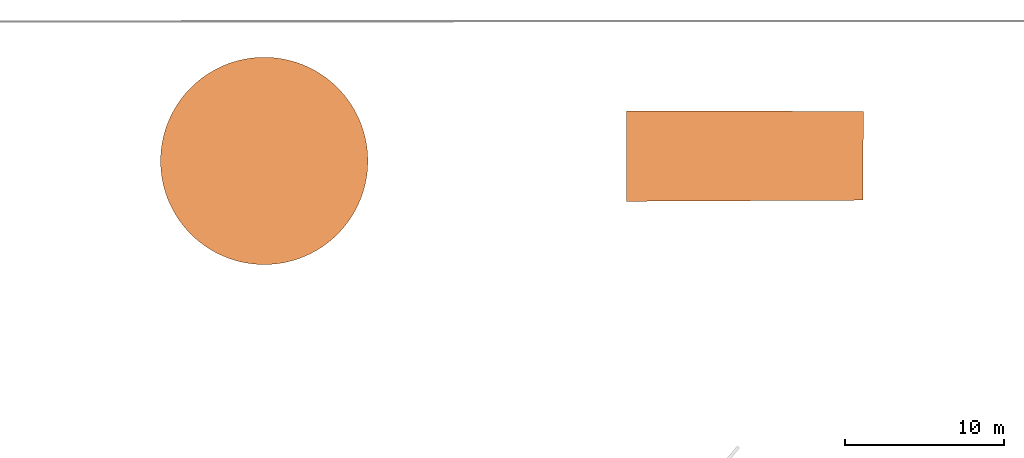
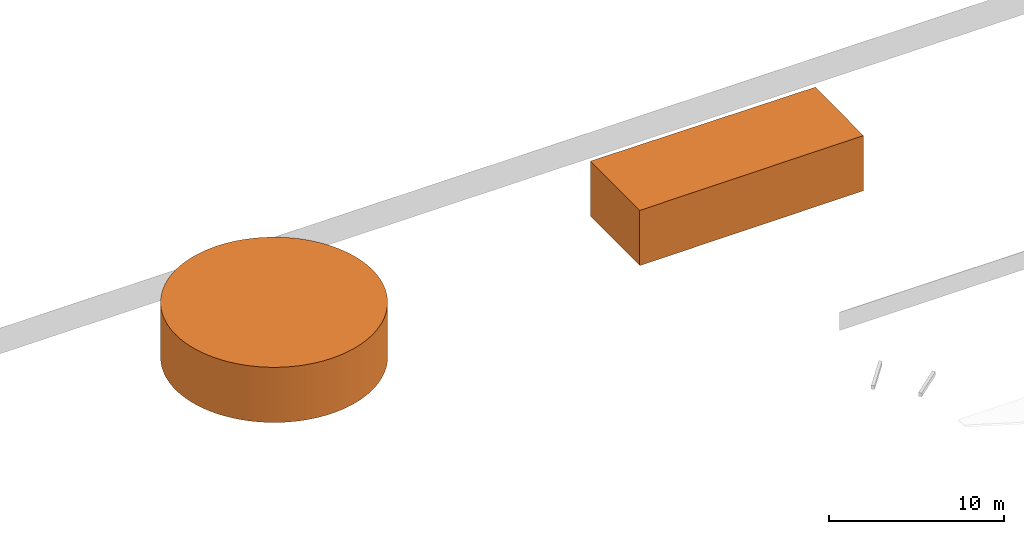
# One storey, part 14 of 16: 1 proxy.
"""IFC2X3 building model written with IfcOpenShell, lengths in millimetres."""

from ifc_helpers import new_model, entity, si_unit, converted_unit, derived_unit, direction, frame, frame_2d, origin, place, context, subcontext, project, spatial, polyline, circle, outline, extrude, source, transform, mapped, material, type_object, type_shapes, element, save


model = new_model("IFC2X3")

# Units and contexts
model_context = context("Model", 3, precision=0.01, world=origin(), true_north=direction((4.05803320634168e-15, -1.0)))
body_context = subcontext(model_context, "Body", "Model", "MODEL_VIEW")
ifc_project = project(units=[si_unit("LENGTHUNIT", "METRE", prefix="MILLI"), si_unit("AREAUNIT", "SQUARE_METRE"), si_unit("VOLUMEUNIT", "CUBIC_METRE"), converted_unit("PLANEANGLEUNIT", "DEGREE", entity("IfcRatioMeasure", 0.0174532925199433), si_unit("PLANEANGLEUNIT", "RADIAN"), dimensions=[0, 0, 0, 0, 0, 0, 0]), si_unit("MASSUNIT", "GRAM", prefix="KILO"), derived_unit("MASSDENSITYUNIT", [(si_unit("MASSUNIT", "GRAM", prefix="KILO"), 1), (si_unit("LENGTHUNIT", "METRE"), -3)]), si_unit("TIMEUNIT", "SECOND"), si_unit("FREQUENCYUNIT", "HERTZ"), si_unit("THERMODYNAMICTEMPERATUREUNIT", "DEGREE_CELSIUS"), derived_unit("THERMALTRANSMITTANCEUNIT", [(si_unit("MASSUNIT", "GRAM", prefix="KILO"), 1), (si_unit("THERMODYNAMICTEMPERATUREUNIT", "KELVIN"), -1), (si_unit("TIMEUNIT", "SECOND"), -3)]), derived_unit("VOLUMETRICFLOWRATEUNIT", [(si_unit("LENGTHUNIT", "METRE"), 3), (si_unit("TIMEUNIT", "SECOND"), -1)]), si_unit("ELECTRICCURRENTUNIT", "AMPERE"), si_unit("ELECTRICVOLTAGEUNIT", "VOLT"), si_unit("POWERUNIT", "WATT"), si_unit("FORCEUNIT", "NEWTON", prefix="KILO"), si_unit("ILLUMINANCEUNIT", "LUX"), si_unit("LUMINOUSFLUXUNIT", "LUMEN"), si_unit("LUMINOUSINTENSITYUNIT", "CANDELA"), derived_unit("USERDEFINED", [(si_unit("MASSUNIT", "GRAM", prefix="KILO"), -1), (si_unit("LENGTHUNIT", "METRE"), -2), (si_unit("TIMEUNIT", "SECOND"), 3), (si_unit("LUMINOUSFLUXUNIT", "LUMEN"), 1)]), derived_unit("LINEARVELOCITYUNIT", [(si_unit("LENGTHUNIT", "METRE"), 1), (si_unit("TIMEUNIT", "SECOND"), -1)]), si_unit("PRESSUREUNIT", "PASCAL"), derived_unit("USERDEFINED", [(si_unit("LENGTHUNIT", "METRE"), -2), (si_unit("MASSUNIT", "GRAM", prefix="KILO"), 1), (si_unit("TIMEUNIT", "SECOND"), -2)])], contexts=[model_context])

# Site, building, storey
site_placement = place(None, frame((927466.849349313, 583801.882853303, 0.0), z_axis=(0.0, 0.0, 1.0), x_axis=(-1.0, 0.0, 0.0)))
site = spatial("IfcSite", under=ifc_project, at=site_placement, Name="Surface", CompositionType="ELEMENT")
building_placement = place(site_placement, origin())
building = spatial("IfcBuilding", under=site, at=building_placement, CompositionType="ELEMENT")
storey_placement = place(building_placement, frame((0.0, 0.0, 42810.0)))
storey = spatial("IfcBuildingStorey", under=building, at=storey_placement, Name="Hardstand", CompositionType="ELEMENT", Elevation=42810.0)

# Proxy
ifc_material = material(Name="Copper")
building_element_proxy_type = type_object("IfcBuildingElementProxyType", Name="Generic Models 4", PredefinedType="NOTDEFINED", material=ifc_material)
shared_shape = source(origin(), body_context, "Body", "SweptSolid", [
    extrude(circle(Radius=6500.13242909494, at=frame_2d((-1.07062919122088e-25, 8.66293703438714e-12), x_axis=(1.0, 0.0))), frame((-20470.6794359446, -53608.4592069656, 42810.0)), (0.0, 0.0, 1.0), 3860.00000000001),
    extrude(outline(polyline([(-7432.24370030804, -2812.13225641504), (7423.71796490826, -2812.13225641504), (7421.78863836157, 2869.60130624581), (-7413.2629029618, 2754.66320658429), (-7432.24370030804, -2812.13225641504)])), frame((-50615.7403521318, -53921.0652936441, 42810.0), z_axis=(0.0, 0.0, 1.0), x_axis=(0.999995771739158, -0.00290800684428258, 0.0)), (0.0, 0.0, 1.0), 3860.00000000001),
])
type_shapes(building_element_proxy_type, [shared_shape])
proxy_placement = place(storey_placement, frame((0.0, 0.0, -42810.0)))
element("IfcBuildingElementProxy", 1, at=proxy_placement, inside=storey, type_object=building_element_proxy_type, material=ifc_material, Name="Generic Models 20:Generic Models 4", ObjectType="Generic Models 4", context=body_context, shape_type="MappedRepresentation", body=[
    mapped(shared_shape, transform((0.0, 0.0, 0.0), scale=1.0)),
])

save(model, "model.ifc")
